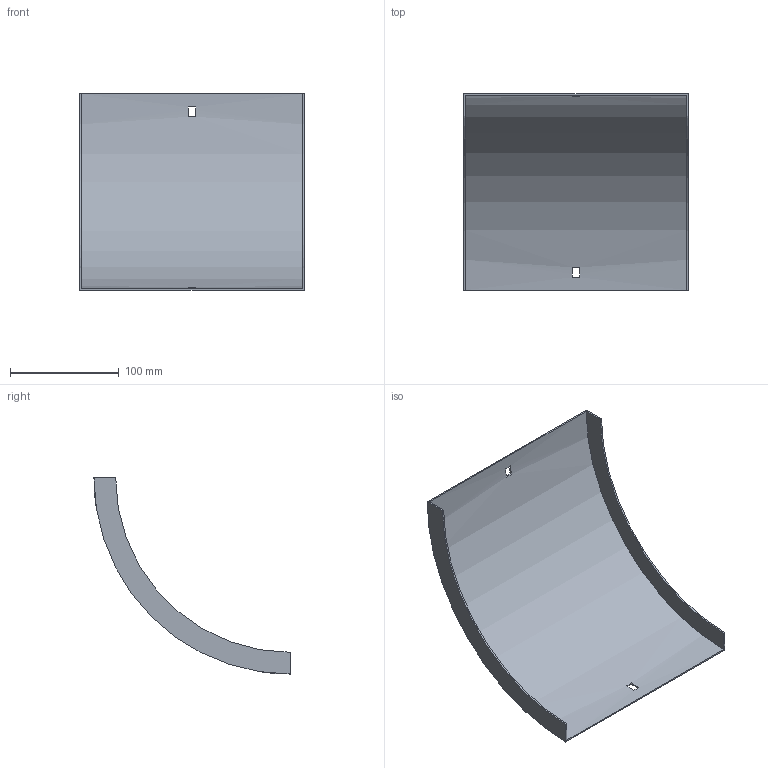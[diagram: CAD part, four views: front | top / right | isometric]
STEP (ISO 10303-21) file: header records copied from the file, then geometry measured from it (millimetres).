
FILE_DESCRIPTION (( 'STEP AP214' ), '1' );
FILE_NAME ('33N1C200.step', '2025-02-21T09:19:05', ( '' ), ( '' ), 'SwSTEP 2.0', 'SolidWorks 2023', '' );
FILE_SCHEMA (( 'AUTOMOTIVE_DESIGN' ));
Length unit declared in the file: millimetre
Products named in the file (1): 33N1C200
Bounding box: 207 x 180.5 x 180.5 mm (x, y, z)
Volume: 102292.3 mm3; surface area: 137975 mm2
Topology: 1 solids, 1 shells, 18 faces, 48 edges, 32 vertices
Faces by surface type: plane 14, cylinder 4
Entity records: 599 total; most frequent: DIRECTION 102, CARTESIAN_POINT 99, ORIENTED_EDGE 96, EDGE_CURVE 48, AXIS2_PLACEMENT_3D 35, VERTEX_POINT 32, VECTOR 32, LINE 32
